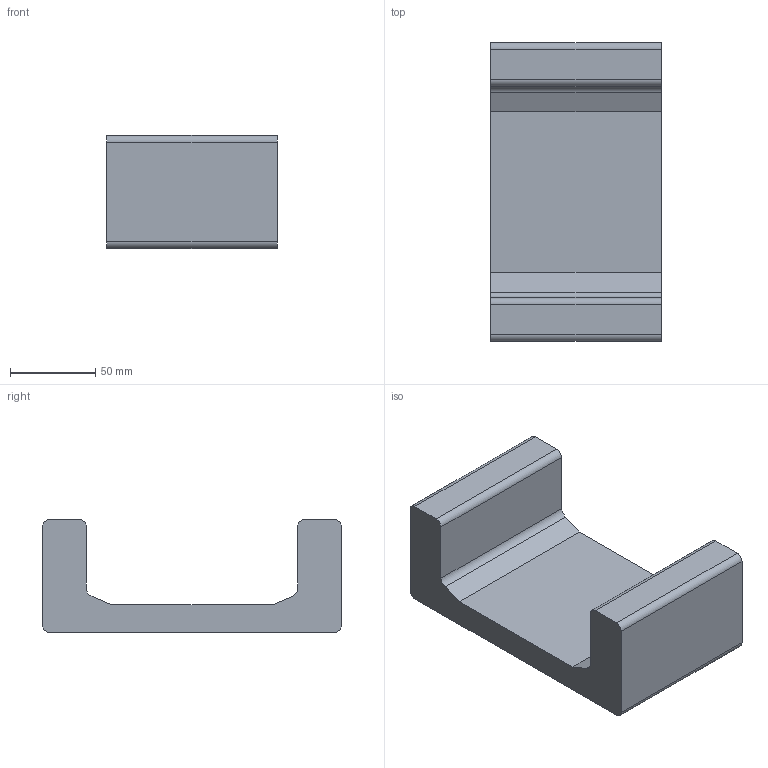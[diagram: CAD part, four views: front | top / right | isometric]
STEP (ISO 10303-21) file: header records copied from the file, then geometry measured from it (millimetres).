
FILE_DESCRIPTION((''),'2;1');
FILE_NAME('K:\Daten\KOMPONENTEN 2D + 3D\KOMPONENTEN Inventor-Files\ALFATEC_UP 120.0700.stp','2013-09-25T14:05:16',('hipp'),(''),'Autodesk Inventor 2013','Autodesk Inventor 2013','');
FILE_SCHEMA(('AUTOMOTIVE_DESIGN { 1 0 10303 214 1 1 1 1 }'));
Length unit declared in the file: millimetre
Products named in the file (1): ALFATEC UP 120.0700 (100mm)
Bounding box: 100 x 175 x 66.2 mm (x, y, z)
Volume: 547435.6 mm3; surface area: 66989.3 mm2
Topology: 1 solids, 1 shells, 20 faces, 54 edges, 36 vertices
Faces by surface type: plane 12, cylinder 8
Entity records: 660 total; most frequent: DIRECTION 112, CARTESIAN_POINT 111, ORIENTED_EDGE 108, EDGE_CURVE 54, VECTOR 38, LINE 38, AXIS2_PLACEMENT_3D 37, VERTEX_POINT 36
